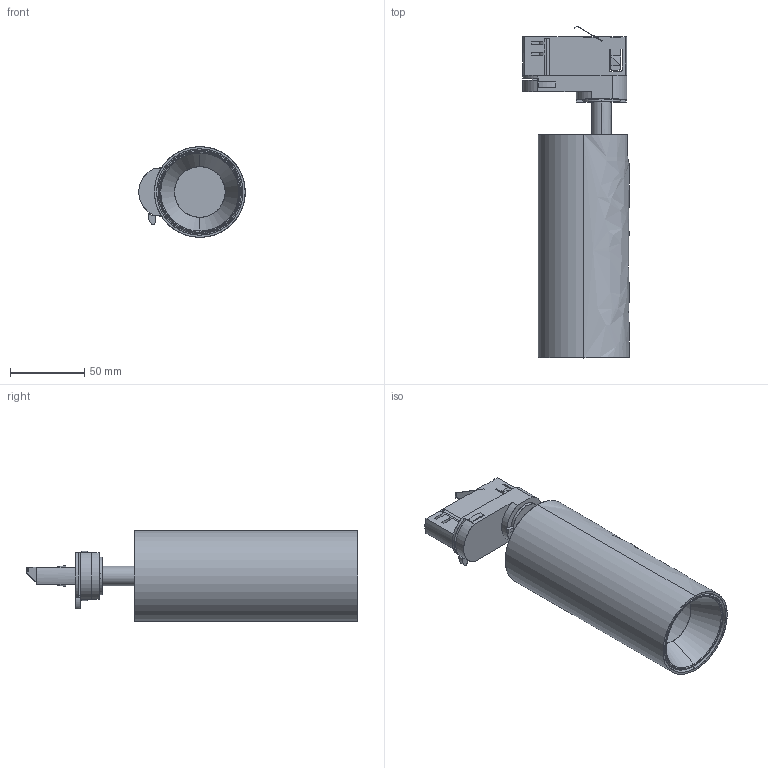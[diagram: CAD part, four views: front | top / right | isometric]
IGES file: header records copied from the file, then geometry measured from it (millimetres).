
Start section: SolidWorks IGES file using analytic representation for surfaces
Global section: file name: C:\Users\danielet\Desktop\ISMAIL\BUDELLI-R41161-3D\BUDELLI-R41161-3D.IGS; native system: SolidWorks 2018; preprocessor: SolidWorks 2018; author: danielet; date: 230313.120205; units: millimetre
Bounding box: 71.5 x 223.08 x 61 mm (x, y, z)
Surface area: 88314.1 mm2 (no closed solid volume)
Topology: 0 solids, 0 shells, 169 faces, 2269 edges, 2269 vertices
Faces by surface type: bspline 126, revolution 43
